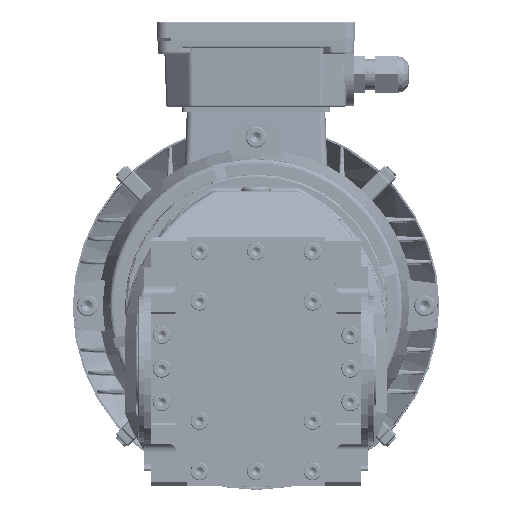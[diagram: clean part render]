
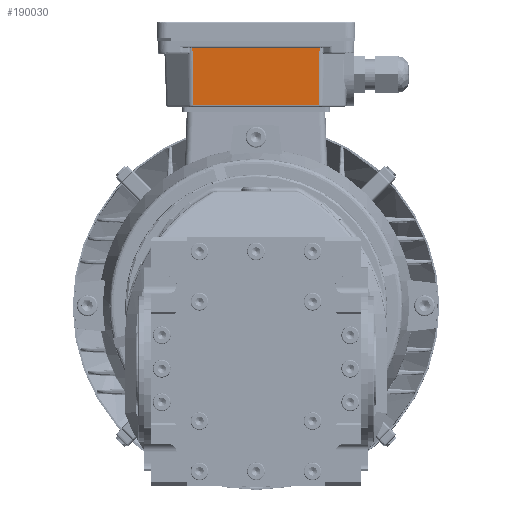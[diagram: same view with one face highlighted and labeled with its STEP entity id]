
A CAD part, top view. The second image highlights one B-rep face of the part: STEP entity #190030.
In plain terms, the highlighted planar face has unit normal (0, -0.035, 0.999) as drawn and (0, 0.035, -0.999) by its records, which use the part's own axes.
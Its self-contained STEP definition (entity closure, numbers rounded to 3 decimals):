
#27129 = VERTEX_POINT ( 'NONE', #43654 ) ;
#27344 = VERTEX_POINT ( 'NONE', #43793 ) ;
#27488 = VERTEX_POINT ( 'NONE', #43933 ) ;
#27559 = VERTEX_POINT ( 'NONE', #43955 ) ;
#43654 = CARTESIAN_POINT ( 'NONE',  ( -29.944, -95.724, 98.143 ) ) ;
#43793 = CARTESIAN_POINT ( 'NONE',  ( 29.944, -95.724, 98.143 ) ) ;
#43933 = CARTESIAN_POINT ( 'NONE',  ( 30.339, -123.017, 97.19 ) ) ;
#43955 = CARTESIAN_POINT ( 'NONE',  ( -30.339, -123.017, 97.19 ) ) ;
#65848 = EDGE_CURVE ( 'NONE', #27559, #27488, #117448, .T. ) ;
#66110 = EDGE_CURVE ( 'NONE', #27488, #27344, #117626, .T. ) ;
#66120 = EDGE_CURVE ( 'NONE', #27344, #27129, #117650, .T. ) ;
#66152 = EDGE_CURVE ( 'NONE', #27129, #27559, #117760, .T. ) ;
#78818 = EDGE_LOOP ( 'NONE', ( #92572, #92690, #92539, #92518 ) ) ;
#92518 = ORIENTED_EDGE ( 'NONE', *, *, #65848, .F. ) ;
#92539 = ORIENTED_EDGE ( 'NONE', *, *, #66110, .F. ) ;
#92572 = ORIENTED_EDGE ( 'NONE', *, *, #66152, .F. ) ;
#92690 = ORIENTED_EDGE ( 'NONE', *, *, #66120, .F. ) ;
#117448 = LINE ( 'NONE', #147905, #117539 ) ;
#117539 = VECTOR ( 'NONE', #147936, 1000. ) ;
#117572 = VECTOR ( 'NONE', #148505, 1000. ) ;
#117626 = LINE ( 'NONE', #148540, #117646 ) ;
#117646 = VECTOR ( 'NONE', #148557, 1000. ) ;
#117650 = LINE ( 'NONE', #148555, #117572 ) ;
#117706 = VECTOR ( 'NONE', #148617, 1000. ) ;
#117760 = LINE ( 'NONE', #148607, #117706 ) ;
#147617 = AXIS2_PLACEMENT_3D ( 'NONE', #161120, #161113, #161098 ) ;
#147905 = CARTESIAN_POINT ( 'NONE',  ( 0., -123.017, 97.19 ) ) ;
#147936 = DIRECTION ( 'NONE',  ( 1., 0., 0. ) ) ;
#148505 = DIRECTION ( 'NONE',  ( -1., 0., 0. ) ) ;
#148540 = CARTESIAN_POINT ( 'NONE',  ( 30.416, -128.348, 97.004 ) ) ;
#148555 = CARTESIAN_POINT ( 'NONE',  ( 0., -95.724, 98.143 ) ) ;
#148557 = DIRECTION ( 'NONE',  ( -0.014, 0.999, 0.035 ) ) ;
#148607 = CARTESIAN_POINT ( 'NONE',  ( -29.944, -95.724, 98.143 ) ) ;
#148617 = DIRECTION ( 'NONE',  ( -0.014, -0.999, -0.035 ) ) ;
#153649 = FACE_OUTER_BOUND ( 'NONE', #78818, .T. ) ;
#161098 = DIRECTION ( 'NONE',  ( 0., -0.999, -0.035 ) ) ;
#161113 = DIRECTION ( 'NONE',  ( 0., -0.035, 0.999 ) ) ;
#161120 = CARTESIAN_POINT ( 'NONE',  ( 0., -128.43, 97.001 ) ) ;
#161173 = PLANE ( 'NONE',  #147617 ) ;
#190030 = ADVANCED_FACE ( 'NONE', ( #153649 ), #161173, .F. ) ;
